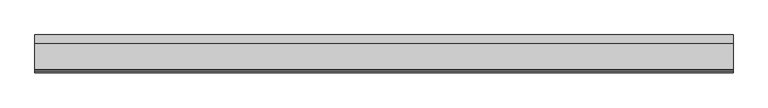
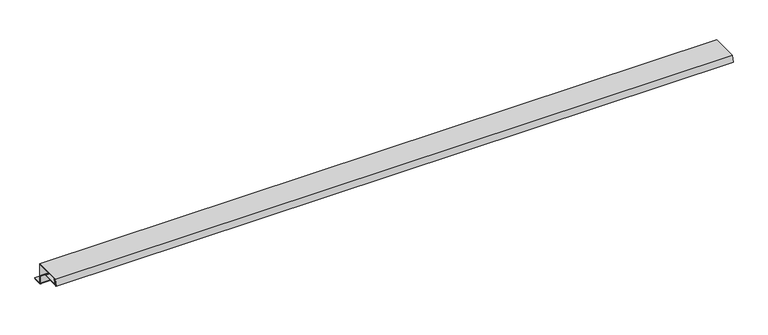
"""IFC4 building model written with IfcOpenShell, lengths in millimetres: proxy geometry, АК6_1 Примыкание к стене : АК6_1 Примыкание к стене."""

from ifc_helpers import new_model, si_unit, point, frame, frame_2d, origin, place, context, project, spatial, polyline, circle_curve, trimmed, segment, composite_curve, outline, extrude, source, transform, mapped, element, save


def generic_models_95d36169(model_context):
    return source(origin(), model_context, "Body", "SweptSolid", [
        extrude(outline(polyline([(-88.8799998, 23.3185165), (-87.914074, 23.0596975), (-91.9766982, 7.8977775), (-43.2799235, 7.8977775), (-43.2799235, 6.8977775), (-93.2799235, 6.8977775), (-88.8799998, 23.3185165)])), frame((0.0, 0.0, 0.0), z_axis=(1.0, 0.0, 0.0), x_axis=(0.0, 1.0, 0.0)), (0.0, 0.0, 1.0), 2024.570074),
        extrude(outline(composite_curve([segment(polyline([(-15.4951934, -12.0), (-13.4951934, -12.0), (-13.4951934, -34.5)]), True, "CONTINUOUS"), segment(trimmed(circle_curve(frame_2d((-12.9951934, -34.5)), 0.5), [point((-13.4951934, -34.5))], [point((-12.9951934, -35.0))], True, "CARTESIAN"), True, "CONTINUOUS"), segment(polyline([(-12.9951934, -35.0), (9.5048066, -35.0), (9.5048066, -37.0), (-12.9951934, -37.0)]), True, "CONTINUOUS"), segment(trimmed(circle_curve(frame_2d((-12.9951934, -34.5)), 2.5), [point((-12.9951934, -37.0))], [point((-15.4951934, -34.5))], False, "CARTESIAN"), True, "CONTINUOUS"), segment(polyline([(-15.4951934, -34.5), (-15.4951934, -12.0)]), True, "CONTINUOUS")], self_intersect=False)), frame((0.0, 0.0, 0.0), z_axis=(1.0, 0.0, 0.0), x_axis=(0.0, 1.0, 0.0)), (0.0, 0.0, 1.0), 2024.570074),
        extrude(outline(polyline([(-12.5, -34.0), (12.5, -34.0), (12.5, -35.0), (-13.5, -35.0), (-13.5, 24.0), (-91.732673, 24.0), (-96.451636, 6.3885903), (-95.4857102, 6.1297712), (-91.0857864, 22.5505103), (-90.1198606, 22.2916912), (-94.7786034, 4.9050263), (-97.6763809, 5.6814835), (-92.5, 25.0), (-12.5, 25.0), (-12.5, -34.0)])), frame((0.0, 0.0, 0.0), z_axis=(1.0, 0.0, 0.0), x_axis=(0.0, 1.0, 0.0)), (0.0, 0.0, 1.0), 2024.570074),
    ])


if __name__ == "__main__":
    model = new_model("IFC4")
    model_context = context("Model", 3, world=origin())
    ifc_project = project(units=[si_unit("LENGTHUNIT", "METRE", prefix="MILLI")], contexts=[model_context])
    site = spatial("IfcSite", under=ifc_project)
    building = spatial("IfcBuilding", under=site)
    placement = place(None, origin())
    generic_models_shape = generic_models_95d36169(model_context)
    element("IfcBuildingElementProxy", 1, Name="АК6_1 Примыкание к стене : АК6_1 Примыкание к стене", ObjectType="АК6_1 Примыкание к стене : АК6_1 Примыкание к стене", at=placement, inside=building, context=model_context, shape_type="MappedRepresentation", body=[
        mapped(generic_models_shape, transform((0.0, 0.0, 0.0), x_axis=(1.0, 0.0, 0.0), y_axis=(0.0, 1.0, 0.0), z_axis=(0.0, 0.0, 1.0))),
    ])
    save(model, "model.ifc")
